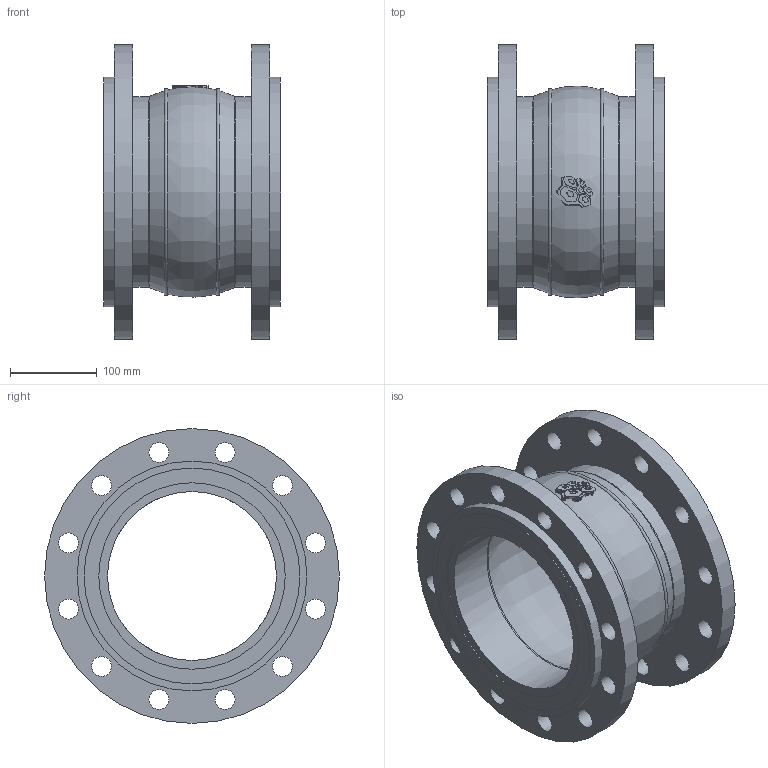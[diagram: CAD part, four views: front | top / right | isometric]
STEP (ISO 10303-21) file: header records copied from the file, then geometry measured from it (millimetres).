
FILE_DESCRIPTION(('STEP AP203'), '1');
FILE_NAME('3D_501-200-EPDM-FF', '', ('UNSPECIFIED'), ('UNSPECIFIED'), 'C3D Converter', 'C3D Toolkit', '');
FILE_SCHEMA(('CONFIG_CONTROL_DESIGN'));
Length unit declared in the file: millimetre
Bounding box: 205 x 340 x 340 mm (x, y, z)
Volume: 4224318.7 mm3; surface area: 557332.8 mm2
Topology: 9 solids, 9 shells, 886 faces, 2567 edges, 1707 vertices
Faces by surface type: plane 839, cylinder 36, torus 11
Full cylindrical faces by diameter (mm): 23 x24, 195 x2, 215 x2, 220 x2, 249 x2, 265 x2, 340 x2
Entity records: 36072 total; most frequent: CARTESIAN_POINT 5530, ORIENTED_EDGE 5040, DIRECTION 4367, EDGE_CURVE 2520, LINE 2439, VECTOR 2439, VERTEX_POINT 1707, EDGE_LOOP 1003
